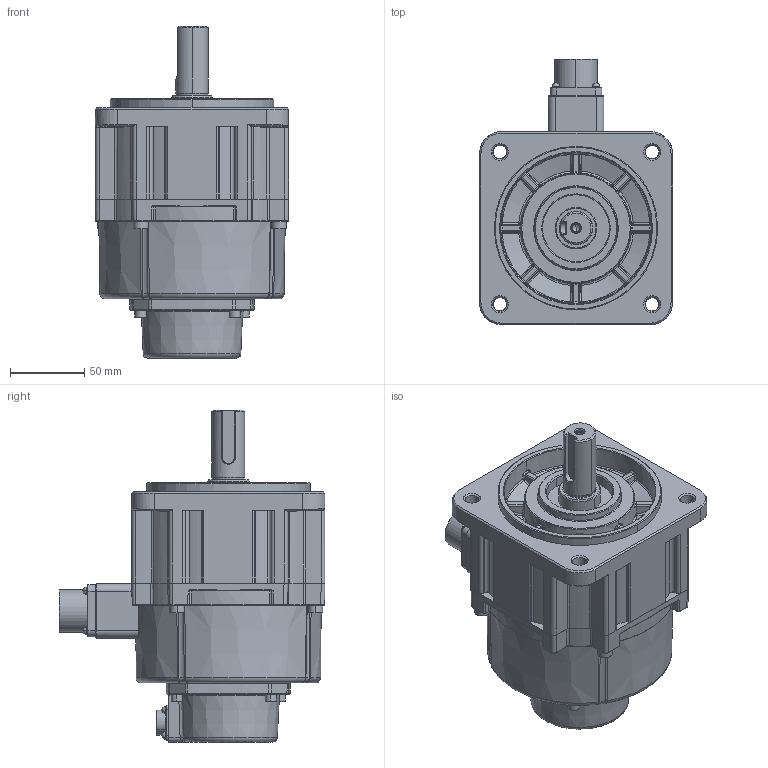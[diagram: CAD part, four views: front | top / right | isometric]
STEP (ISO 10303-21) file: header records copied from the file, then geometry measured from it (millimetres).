
FILE_DESCRIPTION((''),'2;1');
FILE_NAME('ECM-E3M-EX1310SSE_ASM','2022-03-18T11:55:10',('MIO.CHEN'),(''),'CREO PARAMETRIC BY PTC INC, 2017110','CREO PARAMETRIC BY PTC INC, 2017110','');
FILE_SCHEMA(('CONFIG_CONTROL_DESIGN'));
Products named in the file (5): ECM-E3M-EX1310SS1_BRACKET; R_BREACKET_B13SS; ECM-E3M-EX1320SS1_REARCOVER-1; CON-4P-F130; ECM-E3M-EX1310SSE_ASM
Assembly tree (4 placements, depth 2):
  ECM-E3M-EX1310SSE_ASM
    ECM-E3M-EX1310SS1_BRACKET
    R_BREACKET_B13SS
    ECM-E3M-EX1320SS1_REARCOVER-1
    CON-4P-F130
Bounding box: 130 x 178.9 x 223.5 mm (x, y, z)
Volume: 1978353.9 mm3; surface area: 178736.2 mm2
Topology: 4 solids, 16 shells, 1705 faces, 4495 edges, 2788 vertices
Faces by surface type: plane 635, cylinder 485, bspline 169, cone 132, extrusion 114, torus 102, sphere 66, revolution 2
Entity records: 68215 total; most frequent: CARTESIAN_POINT 28041, ORIENTED_EDGE 8774, DIRECTION 7653, EDGE_CURVE 4411, VERTEX_POINT 2788, AXIS2_PLACEMENT_3D 2750, VECTOR 2151, LINE 2037
